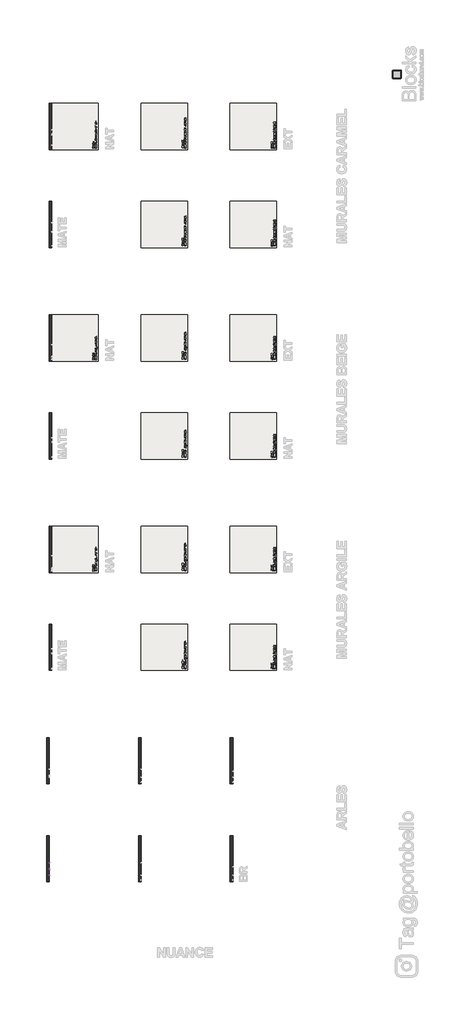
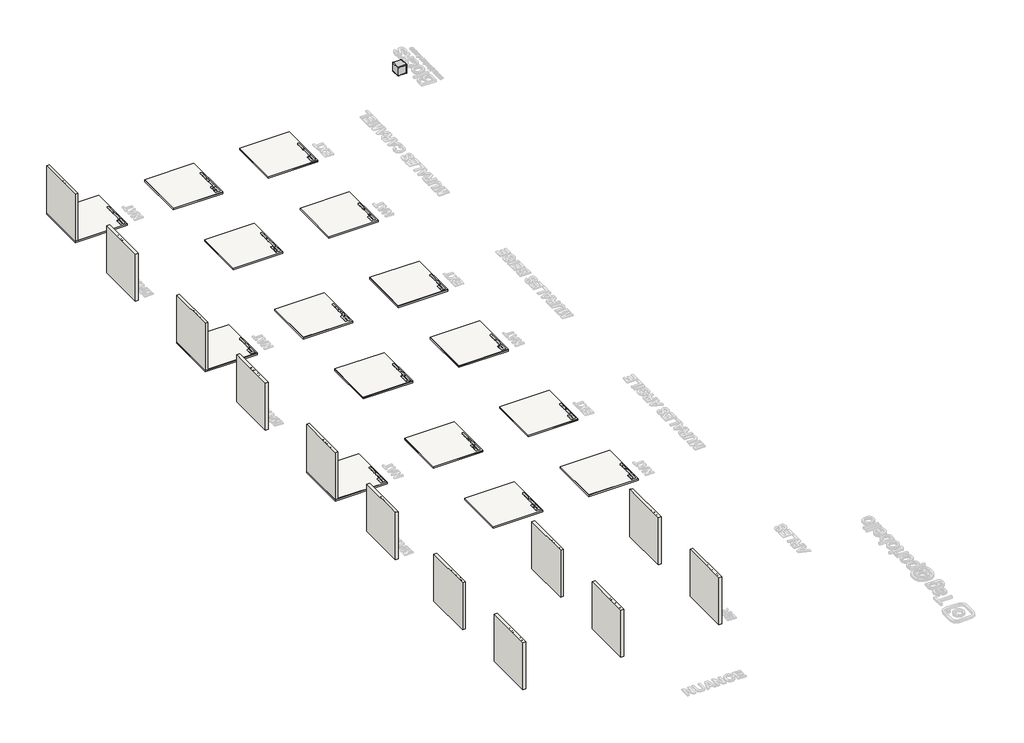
# One storey, part 1 of 21: 30 slabs, 12 walls, 3 proxies, 1 furniture element.
"""IFC4 building model written with IfcOpenShell, lengths in millimetres."""

from ifc_helpers import new_model, si_unit, frame, origin, origin_with_axes, place, context, project, spatial, polyline, outline, extrude, transform, mapped, element, save
from components import branco_22256ad2

model = new_model("IFC4")

# Units and contexts
model_context = context("Model", 3, world=origin())
ifc_project = project(units=[si_unit("LENGTHUNIT", "METRE", prefix="MILLI")], contexts=[model_context])

# Site, building, storey
site = spatial("IfcSite", under=ifc_project)
building = spatial("IfcBuilding", under=site)
storey = spatial("IfcBuildingStorey", under=building, Name="PORTOBELLO - SHOWROOM", Elevation=0.0)

# Proxies
placement = place(None, origin())
element("IfcBuildingElementProxy", 1, Name="10mm Arial", ObjectType="10mm Arial", at=placement, inside=storey, context=model_context, shape_type="SweptSolid", body=[
    extrude(outline(polyline([(-7646.6519205, 2518.4745677), (-7606.552783, 2618.9308778), (-7595.8596797, 2618.9308778), (-7555.7850677, 2518.4745677), (-7569.0533449, 2518.4745677), (-7580.5312632, 2549.8671646), (-7621.9302504, 2549.8671646), (-7633.4081686, 2518.4745677), (-7646.6519205, 2518.4745677)]), holes=[polyline([(-7617.3194627, 2562.4242034), (-7585.1175254, 2562.4242034), (-7594.191948, 2587.121348), (-7601.2307568, 2606.373839), (-7607.4847507, 2589.279589), (-7617.3194627, 2562.4242034)])]), frame((15184.9919226, 0.0, 0.0), z_axis=(1.0, 0.0, 0.0), x_axis=(0.0, 1.0, 0.0)), (0.0, 0.0, 1.0), 20.0),
    extrude(outline(polyline([(-7543.9392674, 2518.4745677), (-7543.9392674, 2592.2471704), (-7532.9518585, 2592.2471704), (-7532.9518585, 2581.3333379), (-7525.1527602, 2591.3887791), (-7517.304611, 2593.8168003), (-7504.6985213, 2589.9417766), (-7508.892376, 2578.6845875), (-7517.7215439, 2581.2597615), (-7524.8216664, 2578.7826894), (-7529.3466149, 2571.9155588), (-7531.3822286, 2557.24933), (-7531.3822286, 2518.4745677), (-7543.9392674, 2518.4745677)])), frame((15184.9919226, 0.0, 0.0), z_axis=(1.0, 0.0, 0.0), x_axis=(0.0, 1.0, 0.0)), (0.0, 0.0, 1.0), 20.0),
    extrude(outline(polyline([(15204.9919226, -7484.2933333), (15204.9919226, -7496.850372), (15184.9919226, -7496.850372), (15184.9919226, -7484.2933333), (15204.9919226, -7484.2933333)])), frame((0.0, 0.0, 2518.4745677), z_axis=(0.0, 0.0, 1.0), x_axis=(1.0, 0.0, 0.0)), (0.0, 0.0, 1.0), 100.4563101),
    extrude(outline(polyline([(-7413.807143, 2540.4493855), (-7401.4953589, 2538.8797557), (-7405.9314026, 2529.602998), (-7413.0100653, 2522.6684224), (-7422.5719315, 2518.345809), (-7434.4575856, 2516.9049378), (-7449.1912596, 2519.391207), (-7460.5281564, 2526.8500144), (-7467.7570376, 2538.7969822), (-7470.1666646, 2554.7477324), (-7467.7325121, 2571.2349771), (-7460.4300545, 2583.5651553), (-7449.2464419, 2591.253889), (-7435.1688242, 2593.8168003), (-7421.5295992, 2591.2600204), (-7410.6310951, 2583.5896808), (-7403.4849873, 2571.2840281), (-7401.1029514, 2554.8213088), (-7401.1765278, 2551.4367944), (-7457.6096259, 2551.4367944), (-7455.4360564, 2542.0374095), (-7450.386876, 2535.1273593), (-7443.0997468, 2530.8783223), (-7434.212331, 2529.4619766), (-7421.9005469, 2532.0862015), (-7413.807143, 2540.4493855)]), holes=[polyline([(-7457.6096259, 2563.9938332), (-7413.6599902, 2563.9938332), (-7418.6877108, 2575.3736496), (-7426.0085625, 2579.7882335), (-7435.2178751, 2581.2597615), (-7450.6811816, 2576.5631347), (-7455.546421, 2571.0724959), (-7457.6096259, 2563.9938332)])]), frame((15184.9919226, 0.0, 0.0), z_axis=(1.0, 0.0, 0.0), x_axis=(0.0, 1.0, 0.0)), (0.0, 0.0, 1.0), 20.0),
    extrude(outline(polyline([(-7393.2548022, 2540.4493855), (-7380.6977634, 2542.0190154), (-7374.8852279, 2532.6993381), (-7361.5678997, 2529.4619766), (-7348.7656062, 2532.429558), (-7344.596277, 2539.3947905), (-7348.7901317, 2545.0356477), (-7361.7150525, 2548.6163658), (-7380.624187, 2554.7599951), (-7388.8770064, 2561.933694), (-7391.6851723, 2572.0627116), (-7389.4288294, 2581.419177), (-7383.2729374, 2588.5683505), (-7375.2898981, 2592.2839586), (-7364.4864302, 2593.8168003), (-7349.2070646, 2591.3519909), (-7339.49498, 2584.6810641), (-7335.1784979, 2573.4116123), (-7347.7355366, 2571.8419824), (-7352.4566889, 2578.7704267), (-7363.5054115, 2581.2597615), (-7375.52289, 2578.8807913), (-7379.1281336, 2573.3380359), (-7377.6320801, 2569.6837414), (-7372.9477161, 2566.9123637), (-7362.1319854, 2564.2390879), (-7343.7010974, 2558.3284505), (-7335.1417097, 2551.6329982), (-7332.0392382, 2540.7191656), (-7335.6812699, 2528.7016871), (-7346.1904323, 2519.9828838), (-7361.7395779, 2516.9049378), (-7374.4008499, 2518.3887285), (-7383.6408194, 2522.8401007), (-7389.8089742, 2530.2100033), (-7393.2548022, 2540.4493855)])), frame((15184.9919226, 0.0, 0.0), z_axis=(1.0, 0.0, 0.0), x_axis=(0.0, 1.0, 0.0)), (0.0, 0.0, 1.0), 20.0),
    extrude(outline(polyline([(-7281.8110831, 2567.3783476), (-7278.463357, 2589.5922887), (-7268.4201785, 2606.3983645), (-7253.0856307, 2616.9749719), (-7233.8637964, 2620.5005077), (-7220.6874896, 2618.8450387), (-7208.8723462, 2613.8786317), (-7199.0621597, 2605.9507747), (-7191.9007235, 2595.4109556), (-7187.5229277, 2582.7680777), (-7186.0636625, 2568.5310445), (-7187.5995698, 2554.1039389), (-7192.2072918, 2541.2832514), (-7199.6323768, 2530.7250381), (-7209.6203729, 2523.0853553), (-7221.3343488, 2518.4500422), (-7233.9373728, 2516.9049378), (-7247.3160147, 2518.6125234), (-7259.1986031, 2523.7352802), (-7268.9842642, 2531.81029), (-7276.072124, 2542.3746346), (-7281.8110831, 2567.3783476)]), holes=[polyline([(-7269.2540443, 2567.2557202), (-7266.7432497, 2551.5410277), (-7259.2108659, 2539.5664687), (-7247.8892975, 2531.9880996), (-7234.0109492, 2529.4619766), (-7219.9302658, 2532.0126251), (-7208.5903033, 2539.6645706), (-7201.1131018, 2552.0070115), (-7198.6207013, 2568.6291463), (-7202.8881324, 2589.3531654), (-7215.3593321, 2603.0751638), (-7233.79022, 2607.9434689), (-7247.2976206, 2605.5982212), (-7258.7816702, 2598.562478), (-7266.6359508, 2586.0452931), (-7269.2540443, 2567.2557202)])]), frame((15184.9919226, 0.0, 0.0), z_axis=(1.0, 0.0, 0.0), x_axis=(0.0, 1.0, 0.0)), (0.0, 0.0, 1.0), 20.0),
    extrude(outline(polyline([(-7126.4177284, 2518.4745677), (-7126.4177284, 2579.6901317), (-7137.4051373, 2579.6901317), (-7137.4051373, 2592.2471704), (-7126.4177284, 2592.2471704), (-7126.4177284, 2599.6783867), (-7125.0933532, 2610.1507609), (-7118.667681, 2617.6310281), (-7106.0125404, 2620.5005077), (-7094.5591476, 2619.1270815), (-7096.3985575, 2607.3548577), (-7103.6335701, 2607.9434689), (-7111.543033, 2605.8588043), (-7113.8606896, 2598.0842314), (-7113.8606896, 2592.2471704), (-7099.734021, 2592.2471704), (-7099.734021, 2579.6901317), (-7113.8606896, 2579.6901317), (-7113.8606896, 2518.4745677), (-7126.4177284, 2518.4745677)])), frame((15184.9919226, 0.0, 0.0), z_axis=(1.0, 0.0, 0.0), x_axis=(0.0, 1.0, 0.0)), (0.0, 0.0, 1.0), 20.0),
    extrude(outline(polyline([(-7167.2281043, 2518.4745677), (-7167.2281043, 2579.6901317), (-7178.2155133, 2579.6901317), (-7178.2155133, 2592.2471704), (-7167.2281043, 2592.2471704), (-7167.2281043, 2599.6783867), (-7165.9037292, 2610.1507609), (-7159.478057, 2617.6310281), (-7146.8229163, 2620.5005077), (-7135.3695236, 2619.1270815), (-7137.2089335, 2607.3548577), (-7144.4439461, 2607.9434689), (-7152.353409, 2605.8588043), (-7154.6710656, 2598.0842314), (-7154.6710656, 2592.2471704), (-7140.544397, 2592.2471704), (-7140.544397, 2579.6901317), (-7154.6710656, 2579.6901317), (-7154.6710656, 2518.4745677), (-7167.2281043, 2518.4745677)])), frame((15184.9919226, 0.0, 0.0), z_axis=(1.0, 0.0, 0.0), x_axis=(0.0, 1.0, 0.0)), (0.0, 0.0, 1.0), 20.0),
    extrude(outline(polyline([(-7029.9590692, 2518.4745677), (-7057.3540151, 2618.9308778), (-7044.4045689, 2618.9308778), (-7028.5120667, 2552.9083224), (-7023.6069734, 2532.5276599), (-7018.3585236, 2550.5538776), (-6998.443845, 2618.9308778), (-6979.7799651, 2618.9308778), (-6965.3099399, 2569.3649103), (-6954.5432602, 2532.5276599), (-6949.7853197, 2552.3197112), (-6933.7701902, 2618.9308778), (-6920.7962185, 2618.9308778), (-6948.166639, 2518.4745677), (-6961.6065945, 2518.4745677), (-6985.7151279, 2595.9750413), (-6989.0751168, 2606.790772), (-6992.8520386, 2593.7677493), (-7014.802331, 2518.4745677), (-7029.9590692, 2518.4745677)])), frame((15184.9919226, 0.0, 0.0), z_axis=(1.0, 0.0, 0.0), x_axis=(0.0, 1.0, 0.0)), (0.0, 0.0, 1.0), 20.0),
    extrude(outline(polyline([(-6909.8088096, 2518.4745677), (-6909.8088096, 2618.9308778), (-6897.2517708, 2618.9308778), (-6897.2517708, 2581.9955255), (-6887.4599784, 2590.8614816), (-6875.3995803, 2593.8168003), (-6861.2974372, 2590.5917015), (-6852.7380494, 2581.6766944), (-6850.1628754, 2565.1710556), (-6850.1628754, 2518.4745677), (-6862.7199142, 2518.4745677), (-6862.7199142, 2563.8712059), (-6866.7175652, 2577.1149577), (-6878.0483307, 2581.2597615), (-6888.3367638, 2578.4638583), (-6895.2038944, 2570.8854892), (-6897.2517708, 2557.6662629), (-6897.2517708, 2518.4745677), (-6909.8088096, 2518.4745677)])), frame((15184.9919226, 0.0, 0.0), z_axis=(1.0, 0.0, 0.0), x_axis=(0.0, 1.0, 0.0)), (0.0, 0.0, 1.0), 20.0),
    extrude(outline(polyline([(15204.9919226, -6820.3399084), (15204.9919226, -6832.8969471), (15184.9919226, -6832.8969471), (15184.9919226, -6820.3399084), (15204.9919226, -6820.3399084)])), frame((0.0, 0.0, 2606.373839), z_axis=(0.0, 0.0, 1.0), x_axis=(1.0, 0.0, 0.0)), (0.0, 0.0, 1.0), 12.5570388),
    extrude(outline(polyline([(15204.9919226, -6820.3399084), (15204.9919226, -6832.8969471), (15184.9919226, -6832.8969471), (15184.9919226, -6820.3399084), (15204.9919226, -6820.3399084)])), frame((0.0, 0.0, 2518.4745677), z_axis=(0.0, 0.0, 1.0), x_axis=(1.0, 0.0, 0.0)), (0.0, 0.0, 1.0), 73.7726028),
    extrude(outline(polyline([(-6774.8206428, 2528.9469418), (-6773.251013, 2518.1066857), (-6782.6442666, 2516.9049378), (-6793.1656917, 2518.9896025), (-6798.4141415, 2524.4587815), (-6799.9347204, 2538.7080774), (-6799.9347204, 2579.6901317), (-6809.3524994, 2579.6901317), (-6809.3524994, 2592.2471704), (-6799.9347204, 2592.2471704), (-6799.9347204, 2610.1752863), (-6787.3776816, 2617.5574517), (-6787.3776816, 2592.2471704), (-6774.8206428, 2592.2471704), (-6774.8206428, 2579.6901317), (-6787.3776816, 2579.6901317), (-6787.3776816, 2539.0759594), (-6786.715494, 2532.6012363), (-6784.5695157, 2530.3081052), (-6780.2898218, 2529.4619766), (-6774.8206428, 2528.9469418)])), frame((15184.9919226, 0.0, 0.0), z_axis=(1.0, 0.0, 0.0), x_axis=(0.0, 1.0, 0.0)), (0.0, 0.0, 1.0), 20.0),
    extrude(outline(polyline([(-6710.6129719, 2540.4493855), (-6698.3011878, 2538.8797557), (-6702.7372316, 2529.602998), (-6709.8158943, 2522.6684224), (-6719.3777605, 2518.345809), (-6731.2634146, 2516.9049378), (-6745.9970885, 2519.391207), (-6757.3339853, 2526.8500144), (-6764.5628665, 2538.7969822), (-6766.9724936, 2554.7477324), (-6764.5383411, 2571.2349771), (-6757.2358835, 2583.5651553), (-6746.0522708, 2591.253889), (-6731.9746531, 2593.8168003), (-6718.3354282, 2591.2600204), (-6707.436924, 2583.5896808), (-6700.2908163, 2571.2840281), (-6697.9087804, 2554.8213088), (-6697.9823568, 2551.4367944), (-6754.4154548, 2551.4367944), (-6752.2418854, 2542.0374095), (-6747.192705, 2535.1273593), (-6739.9055758, 2530.8783223), (-6731.0181599, 2529.4619766), (-6718.7063758, 2532.0862015), (-6710.6129719, 2540.4493855)]), holes=[polyline([(-6754.4154548, 2563.9938332), (-6710.4658191, 2563.9938332), (-6715.4935397, 2575.3736496), (-6722.8143914, 2579.7882335), (-6732.0237041, 2581.2597615), (-6747.4870106, 2576.5631347), (-6752.35225, 2571.0724959), (-6754.4154548, 2563.9938332)])]), frame((15184.9919226, 0.0, 0.0), z_axis=(1.0, 0.0, 0.0), x_axis=(0.0, 1.0, 0.0)), (0.0, 0.0, 1.0), 20.0),
])
element("IfcBuildingElementProxy", 2, Name="10mm Arial", ObjectType="10mm Arial", at=placement, inside=storey, context=model_context, shape_type="SweptSolid", body=[
    extrude(outline(polyline([(-7592.5977926, 2383.4745677), (-7605.1548314, 2383.4745677), (-7605.1548314, 2461.7598562), (-7617.0496826, 2453.2863076), (-7630.2689089, 2446.9464746), (-7630.2689089, 2458.8168003), (-7611.8625465, 2470.5644987), (-7600.6911965, 2483.9308778), (-7592.5977926, 2483.9308778), (-7592.5977926, 2383.4745677)])), frame((15184.9919226, 0.0, 0.0), z_axis=(1.0, 0.0, 0.0), x_axis=(0.0, 1.0, 0.0)), (0.0, 0.0, 1.0), 20.0),
    extrude(outline(polyline([(-7562.7748256, 2410.158275), (-7550.2177868, 2411.7279049), (-7543.8902165, 2398.7907214), (-7530.769092, 2394.4619766), (-7521.7682458, 2395.9672271), (-7515.0237426, 2400.4829786), (-7510.8114937, 2407.4880649), (-7509.4074108, 2416.4613199), (-7514.6681233, 2431.3728034), (-7521.2746708, 2435.4746877), (-7530.5728883, 2436.8419824), (-7541.5970854, 2434.6592159), (-7548.6481569, 2428.9938332), (-7561.2051957, 2430.563463), (-7550.2177868, 2482.361248), (-7501.5592616, 2482.361248), (-7501.5592616, 2469.8042092), (-7540.0642437, 2469.8042092), (-7545.4598463, 2442.1394832), (-7536.489657, 2447.5841367), (-7527.090272, 2449.3990212), (-7515.3548364, 2447.1488097), (-7505.6059635, 2440.3981751), (-7499.0392699, 2430.1097419), (-7496.850372, 2417.2461348), (-7498.8185407, 2404.6890961), (-7504.7230467, 2393.9469418), (-7516.0292867, 2384.9154388), (-7530.8181429, 2381.9049378), (-7543.1513868, 2383.839384), (-7552.9769018, 2389.6427224), (-7559.712208, 2398.6405029), (-7562.7748256, 2410.158275)])), frame((15184.9919226, 0.0, 0.0), z_axis=(1.0, 0.0, 0.0), x_axis=(0.0, 1.0, 0.0)), (0.0, 0.0, 1.0), 20.0),
    extrude(outline(polyline([(-7479.5844437, 2383.4745677), (-7479.5844437, 2396.0316064), (-7467.027405, 2396.0316064), (-7467.027405, 2383.4745677), (-7469.2837479, 2370.635486), (-7476.445184, 2363.0693797), (-7479.5844437, 2367.7782692), (-7474.973656, 2373.1983973), (-7473.3304498, 2383.4745677), (-7479.5844437, 2383.4745677)])), frame((15184.9919226, 0.0, 0.0), z_axis=(1.0, 0.0, 0.0), x_axis=(0.0, 1.0, 0.0)), (0.0, 0.0, 1.0), 20.0),
    extrude(outline(polyline([(-7446.622217, 2410.158275), (-7434.0651782, 2411.7279049), (-7427.7376079, 2398.7907214), (-7414.6164834, 2394.4619766), (-7405.6156372, 2395.9672271), (-7398.871134, 2400.4829786), (-7394.6588851, 2407.4880649), (-7393.2548022, 2416.4613199), (-7398.5155147, 2431.3728034), (-7405.1220622, 2435.4746877), (-7414.4202796, 2436.8419824), (-7425.4444768, 2434.6592159), (-7432.4955483, 2428.9938332), (-7445.0525871, 2430.563463), (-7434.0651782, 2482.361248), (-7385.406653, 2482.361248), (-7385.406653, 2469.8042092), (-7423.9116351, 2469.8042092), (-7429.3072377, 2442.1394832), (-7420.3370484, 2447.5841367), (-7410.9376634, 2449.3990212), (-7399.2022278, 2447.1488097), (-7389.4533549, 2440.3981751), (-7382.8866613, 2430.1097419), (-7380.6977634, 2417.2461348), (-7382.6659321, 2404.6890961), (-7388.5704381, 2393.9469418), (-7399.8766781, 2384.9154388), (-7414.6655343, 2381.9049378), (-7426.9987782, 2383.839384), (-7436.8242931, 2389.6427224), (-7443.5595993, 2398.6405029), (-7446.622217, 2410.158275)])), frame((15184.9919226, 0.0, 0.0), z_axis=(1.0, 0.0, 0.0), x_axis=(0.0, 1.0, 0.0)), (0.0, 0.0, 1.0), 20.0),
    extrude(outline(polyline([(-7374.419244, 2383.4745677), (-7347.5883839, 2420.5815982), (-7372.8496142, 2457.2471704), (-7357.7909779, 2457.2471704), (-7345.6018211, 2439.5643092), (-7339.8873874, 2431.2501761), (-7334.9332432, 2438.0682557), (-7321.0518293, 2457.2471704), (-7305.944142, 2457.2471704), (-7332.4806966, 2420.5570728), (-7306.9251607, 2383.4745677), (-7322.0083225, 2383.4745677), (-7337.4103153, 2405.792742), (-7340.2062185, 2409.8884949), (-7359.3115568, 2383.4745677), (-7374.419244, 2383.4745677)])), frame((15184.9919226, 0.0, 0.0), z_axis=(1.0, 0.0, 0.0), x_axis=(0.0, 1.0, 0.0)), (0.0, 0.0, 1.0), 20.0),
    extrude(outline(polyline([(-7251.988116, 2383.4745677), (-7264.5451548, 2383.4745677), (-7264.5451548, 2461.7598562), (-7276.440006, 2453.2863076), (-7289.6592323, 2446.9464746), (-7289.6592323, 2458.8168003), (-7271.2528699, 2470.5644987), (-7260.0815199, 2483.9308778), (-7251.988116, 2483.9308778), (-7251.988116, 2383.4745677)])), frame((15184.9919226, 0.0, 0.0), z_axis=(1.0, 0.0, 0.0), x_axis=(0.0, 1.0, 0.0)), (0.0, 0.0, 1.0), 20.0),
    extrude(outline(polyline([(-7222.165149, 2410.158275), (-7209.6081102, 2411.7279049), (-7203.2805399, 2398.7907214), (-7190.1594154, 2394.4619766), (-7181.1585692, 2395.9672271), (-7174.414066, 2400.4829786), (-7170.2018171, 2407.4880649), (-7168.7977342, 2416.4613199), (-7174.0584467, 2431.3728034), (-7180.6649942, 2435.4746877), (-7189.9632117, 2436.8419824), (-7200.9874088, 2434.6592159), (-7208.0384803, 2428.9938332), (-7220.5955191, 2430.563463), (-7209.6081102, 2482.361248), (-7160.949585, 2482.361248), (-7160.949585, 2469.8042092), (-7199.4545671, 2469.8042092), (-7204.8501697, 2442.1394832), (-7195.8799804, 2447.5841367), (-7186.4805954, 2449.3990212), (-7174.7451598, 2447.1488097), (-7164.9962869, 2440.3981751), (-7158.4295933, 2430.1097419), (-7156.2406954, 2417.2461348), (-7158.2088641, 2404.6890961), (-7164.1133701, 2393.9469418), (-7175.4196101, 2384.9154388), (-7190.2084663, 2381.9049378), (-7202.5417102, 2383.839384), (-7212.3672252, 2389.6427224), (-7219.1025314, 2398.6405029), (-7222.165149, 2410.158275)])), frame((15184.9919226, 0.0, 0.0), z_axis=(1.0, 0.0, 0.0), x_axis=(0.0, 1.0, 0.0)), (0.0, 0.0, 1.0), 20.0),
    extrude(outline(polyline([(-7138.9747671, 2383.4745677), (-7138.9747671, 2396.0316064), (-7126.4177284, 2396.0316064), (-7126.4177284, 2383.4745677), (-7128.6740713, 2370.635486), (-7135.8355074, 2363.0693797), (-7138.9747671, 2367.7782692), (-7134.3639794, 2373.1983973), (-7132.7207732, 2383.4745677), (-7138.9747671, 2383.4745677)])), frame((15184.9919226, 0.0, 0.0), z_axis=(1.0, 0.0, 0.0), x_axis=(0.0, 1.0, 0.0)), (0.0, 0.0, 1.0), 20.0),
    extrude(outline(polyline([(-7106.0125404, 2410.158275), (-7093.4555016, 2411.7279049), (-7087.1279313, 2398.7907214), (-7074.0068068, 2394.4619766), (-7065.0059606, 2395.9672271), (-7058.2614574, 2400.4829786), (-7054.0492085, 2407.4880649), (-7052.6451256, 2416.4613199), (-7057.9058381, 2431.3728034), (-7064.5123856, 2435.4746877), (-7073.810603, 2436.8419824), (-7084.8348002, 2434.6592159), (-7091.8858717, 2428.9938332), (-7104.4429105, 2430.563463), (-7093.4555016, 2482.361248), (-7044.7969764, 2482.361248), (-7044.7969764, 2469.8042092), (-7083.3019585, 2469.8042092), (-7088.6975611, 2442.1394832), (-7079.7273718, 2447.5841367), (-7070.3279868, 2449.3990212), (-7058.5925512, 2447.1488097), (-7048.8436783, 2440.3981751), (-7042.2769847, 2430.1097419), (-7040.0880868, 2417.2461348), (-7042.0562555, 2404.6890961), (-7047.9607615, 2393.9469418), (-7059.2670015, 2384.9154388), (-7074.0558577, 2381.9049378), (-7086.3891016, 2383.839384), (-7096.2146165, 2389.6427224), (-7102.9499227, 2398.6405029), (-7106.0125404, 2410.158275)])), frame((15184.9919226, 0.0, 0.0), z_axis=(1.0, 0.0, 0.0), x_axis=(0.0, 1.0, 0.0)), (0.0, 0.0, 1.0), 20.0),
])
element("IfcBuildingElementProxy", 3, Name="10mm Arial Narrow", ObjectType="10mm Arial Narrow", at=placement, inside=storey, context=model_context, shape_type="SweptSolid", body=[
    extrude(outline(polyline([(-6633.0722036, 2518.4745677), (-6633.0722036, 2615.7916181), (-6602.8323036, 2615.7916181), (-6587.0869542, 2613.9767336), (-6576.0014434, 2604.8164719), (-6571.8566396, 2588.3721467), (-6573.5826193, 2576.7041561), (-6578.7605584, 2567.402873), (-6588.1752718, 2561.314426), (-6602.6115744, 2559.2849437), (-6623.6544246, 2559.2849437), (-6623.6544246, 2518.4745677), (-6633.0722036, 2518.4745677)]), holes=[polyline([(-6623.6544246, 2570.2723526), (-6601.4588775, 2570.2723526), (-6586.130461, 2574.6501483), (-6581.2744187, 2587.857112), (-6583.6656517, 2597.6795612), (-6589.441399, 2603.2836303), (-6601.6796067, 2604.8042092), (-6623.6544246, 2604.8042092), (-6623.6544246, 2570.2723526)])]), frame((15184.9919226, 0.0, 0.0), z_axis=(1.0, 0.0, 0.0), x_axis=(0.0, 1.0, 0.0)), (0.0, 0.0, 1.0), 20.0),
    extrude(outline(polyline([(-6564.0084904, 2553.7912392), (-6562.1200295, 2569.8216971), (-6556.4546468, 2581.3701261), (-6547.895259, 2588.350687), (-6537.324783, 2590.6775406), (-6526.8769344, 2588.350687), (-6518.2930211, 2581.3701261), (-6512.554062, 2570.0056381), (-6510.6410756, 2554.5270032), (-6512.5203395, 2537.9447223), (-6518.1581311, 2526.2123523), (-6526.7083218, 2519.2317914), (-6537.324783, 2516.9049378), (-6547.8186169, 2519.2379228), (-6556.3933331, 2526.2368778), (-6562.1047011, 2537.7914381), (-6564.0084904, 2553.7912392)]), holes=[polyline([(-6554.5907113, 2553.8157647), (-6553.3307155, 2541.6879216), (-6549.550728, 2533.1162711), (-6543.906805, 2528.0211054), (-6537.0550029, 2526.3227169), (-6530.5618857, 2528.0364339), (-6525.0620498, 2533.1775847), (-6521.3096535, 2541.7645636), (-6520.0588547, 2553.8157647), (-6521.3188505, 2565.9068196), (-6525.098838, 2574.4662073), (-6530.742761, 2579.561373), (-6537.5945631, 2581.2597615), (-6544.1336656, 2579.5521759), (-6549.6243044, 2574.4294191), (-6553.3491096, 2565.8608343), (-6554.5907113, 2553.8157647)])]), frame((15184.9919226, 0.0, 0.0), z_axis=(1.0, 0.0, 0.0), x_axis=(0.0, 1.0, 0.0)), (0.0, 0.0, 1.0), 20.0),
    extrude(outline(polyline([(-6441.5773624, 2526.3227169), (-6440.0077326, 2516.9049378), (-6447.1201178, 2516.9049378), (-6455.1154198, 2518.9528143), (-6459.2847491, 2524.5568833), (-6460.4129206, 2538.7080774), (-6460.4129206, 2579.6901317), (-6468.2610698, 2579.6901317), (-6468.2610698, 2582.8293914), (-6469.8306996, 2578.1205018), (-6477.1392886, 2579.6901317), (-6483.0131378, 2577.4460515), (-6486.7532714, 2571.1797948), (-6488.6662578, 2556.2928368), (-6488.6662578, 2518.4745677), (-6498.0840369, 2518.4745677), (-6498.0840369, 2589.1079107), (-6488.6662578, 2589.1079107), (-6488.6662578, 2579.7391826), (-6482.6329931, 2588.5192995), (-6476.4525756, 2590.6775406), (-6468.2610698, 2589.1079107), (-6460.4129206, 2589.1079107), (-6460.4129206, 2604.8042092), (-6450.9951415, 2612.6523584), (-6450.9951415, 2589.1079107), (-6441.5773624, 2589.1079107), (-6441.5773624, 2579.6901317), (-6450.9951415, 2579.6901317), (-6450.9951415, 2536.5498364), (-6450.1612756, 2528.8243145), (-6445.6976408, 2526.3227169), (-6441.5773624, 2526.3227169)])), frame((15184.9919226, 0.0, 0.0), z_axis=(1.0, 0.0, 0.0), x_axis=(0.0, 1.0, 0.0)), (0.0, 0.0, 1.0), 20.0),
    extrude(outline(polyline([(-6435.298843, 2553.7912392), (-6433.4103821, 2569.8216971), (-6427.7449994, 2581.3701261), (-6419.1856116, 2588.350687), (-6408.6151356, 2590.6775406), (-6398.167287, 2588.350687), (-6389.5833738, 2581.3701261), (-6383.8444146, 2570.0056381), (-6381.9314283, 2554.5270032), (-6383.8106921, 2537.9447223), (-6389.4484837, 2526.2123523), (-6397.9986744, 2519.2317914), (-6408.6151356, 2516.9049378), (-6419.1089696, 2519.2379228), (-6427.6836857, 2526.2368778), (-6433.3950537, 2537.7914381), (-6435.298843, 2553.7912392)]), holes=[polyline([(-6425.8810639, 2553.8157647), (-6424.6210681, 2541.6879216), (-6420.8410806, 2533.1162711), (-6415.1971577, 2528.0211054), (-6408.3453555, 2526.3227169), (-6401.8522383, 2528.0364339), (-6396.3524025, 2533.1775847), (-6392.6000061, 2541.7645636), (-6391.3492073, 2553.8157647), (-6392.6092032, 2565.9068196), (-6396.3891907, 2574.4662073), (-6402.0331136, 2579.561373), (-6408.8849158, 2581.2597615), (-6415.4240182, 2579.5521759), (-6420.914657, 2574.4294191), (-6424.6394622, 2565.8608343), (-6425.8810639, 2553.8157647)])]), frame((15184.9919226, 0.0, 0.0), z_axis=(1.0, 0.0, 0.0), x_axis=(0.0, 1.0, 0.0)), (0.0, 0.0, 1.0), 20.0),
    extrude(outline(polyline([(-6359.9566104, 2518.4745677), (-6369.3743895, 2518.4745677), (-6369.3743895, 2615.7916181), (-6359.9566104, 2615.7916181), (-6359.9566104, 2581.5785926), (-6352.807437, 2588.4211977), (-6343.9169554, 2590.6775406), (-6331.4702813, 2586.6185759), (-6322.5062233, 2574.3190545), (-6319.1462344, 2554.3307995), (-6321.0132355, 2538.4321659), (-6326.6142389, 2526.641548), (-6334.7045771, 2519.3390904), (-6344.0395828, 2516.9049378), (-6353.0649544, 2519.4310609), (-6359.9566104, 2526.9358536), (-6359.9566104, 2518.4745677)]), holes=[polyline([(-6359.9566104, 2554.3307995), (-6357.9455222, 2537.6657451), (-6352.255614, 2529.2289847), (-6344.0886337, 2526.3227169), (-6338.3466089, 2528.0517623), (-6333.2851658, 2533.2388984), (-6328.5640135, 2553.938392), (-6333.1134875, 2574.6501483), (-6338.181062, 2579.6073582), (-6344.2848374, 2581.2597615), (-6350.0605847, 2579.5307161), (-6355.1741445, 2574.34358), (-6359.9566104, 2554.3307995)])]), frame((15184.9919226, 0.0, 0.0), z_axis=(1.0, 0.0, 0.0), x_axis=(0.0, 1.0, 0.0)), (0.0, 0.0, 1.0), 20.0),
    extrude(outline(polyline([(-6268.9180793, 2540.4493855), (-6259.5003003, 2538.8797557), (-6268.6973501, 2522.4476932), (-6285.1784635, 2516.9049378), (-6296.3804703, 2519.2379228), (-6305.2157695, 2526.2368778), (-6310.9547287, 2537.6442853), (-6312.867715, 2553.202628), (-6310.9455316, 2569.3066623), (-6305.1789813, 2581.0758205), (-6296.4693751, 2588.2771106), (-6285.7180238, 2590.6775406), (-6275.3958681, 2588.359884), (-6266.9437793, 2581.4069143), (-6261.3059877, 2570.0638861), (-6259.4267239, 2554.5760541), (-6259.5003003, 2551.4367944), (-6303.449936, 2551.4367944), (-6297.6496632, 2532.6502872), (-6291.9199011, 2527.9046095), (-6285.0558362, 2526.3227169), (-6275.2211242, 2529.854384), (-6268.9180793, 2540.4493855)]), holes=[polyline([(-6302.8122738, 2560.8545735), (-6268.9180793, 2560.8545735), (-6273.0383577, 2574.6378856), (-6278.6669522, 2579.6042925), (-6285.6444474, 2581.2597615), (-6297.4411967, 2575.7415316), (-6302.8122738, 2560.8545735)])]), frame((15184.9919226, 0.0, 0.0), z_axis=(1.0, 0.0, 0.0), x_axis=(0.0, 1.0, 0.0)), (0.0, 0.0, 1.0), 20.0),
    extrude(outline(polyline([(15204.9919226, -6237.5254824), (15204.9919226, -6246.9432615), (15184.9919226, -6246.9432615), (15184.9919226, -6237.5254824), (15204.9919226, -6237.5254824)])), frame((0.0, 0.0, 2518.4745677), z_axis=(0.0, 0.0, 1.0), x_axis=(1.0, 0.0, 0.0)), (0.0, 0.0, 1.0), 97.3170505),
    extrude(outline(polyline([(15204.9919226, -6212.4114049), (15204.9919226, -6221.829184), (15184.9919226, -6221.829184), (15184.9919226, -6212.4114049), (15204.9919226, -6212.4114049)])), frame((0.0, 0.0, 2518.4745677), z_axis=(0.0, 0.0, 1.0), x_axis=(1.0, 0.0, 0.0)), (0.0, 0.0, 1.0), 97.3170505),
    extrude(outline(polyline([(-6201.423996, 2553.7912392), (-6199.535535, 2569.8216971), (-6193.8701523, 2581.3701261), (-6185.3107646, 2588.350687), (-6174.7402886, 2590.6775406), (-6164.2924399, 2588.350687), (-6155.7085267, 2581.3701261), (-6149.9695676, 2570.0056381), (-6148.0565812, 2554.5270032), (-6149.935845, 2537.9447223), (-6155.5736366, 2526.2123523), (-6164.1238273, 2519.2317914), (-6174.7402886, 2516.9049378), (-6185.2341225, 2519.2379228), (-6193.8088387, 2526.2368778), (-6199.5202066, 2537.7914381), (-6201.423996, 2553.7912392)]), holes=[polyline([(-6192.0062169, 2553.8157647), (-6190.746221, 2541.6879216), (-6186.9662335, 2533.1162711), (-6181.3223106, 2528.0211054), (-6174.4705084, 2526.3227169), (-6167.9773912, 2528.0364339), (-6162.4775554, 2533.1775847), (-6158.725159, 2541.7645636), (-6157.4743603, 2553.8157647), (-6158.7343561, 2565.9068196), (-6162.5143436, 2574.4662073), (-6168.1582665, 2579.561373), (-6175.0100687, 2581.2597615), (-6181.5491712, 2579.5521759), (-6187.0398099, 2574.4294191), (-6190.7646151, 2565.8608343), (-6192.0062169, 2553.8157647)])]), frame((15184.9919226, 0.0, 0.0), z_axis=(1.0, 0.0, 0.0), x_axis=(0.0, 1.0, 0.0)), (0.0, 0.0, 1.0), 20.0),
])

# Furniture
branco_shape = branco_22256ad2(model_context)
element("IfcFurniture", 4, ObjectType="Blks_Mob_Blocks Revit_Cubo : Branco", at=placement, inside=storey, context=model_context, shape_type="MappedRepresentation", body=[
    mapped(branco_shape, transform((35435.2148271, 39252.4325198, 0.0), x_axis=(1.0, 0.0, 0.0), y_axis=(0.0, 1.0, 0.0), z_axis=(0.0, 0.0, 1.0))),
])

# Slabs
element("IfcSlab", 5, ObjectType="PORTOBELLO - NUANCE MURALE ARGILE 20X20 NAT BOLD", at=placement, inside=storey, context=model_context, shape_type="SweptSolid", body=[
    extrude(outline(polyline([(18033.968651, 10275.391761), (15333.968651, 10275.391761), (15333.968651, 12975.391761), (18033.968651, 12975.391761), (18033.968651, 10275.391761)])), frame((0.0, 0.0, -17.0), z_axis=(0.0, 0.0, 1.0), x_axis=(1.0, 0.0, 0.0)), (0.0, 0.0, 1.0), 17.0),
])
element("IfcSlab", 6, ObjectType="PORTOBELLO - LAJE", at=placement, inside=storey, context=model_context, shape_type="SweptSolid", body=[
    extrude(outline(polyline([(18033.968651, 12975.391761), (18033.968651, 10275.391761), (15183.968651, 10275.391761), (15183.968651, 12975.391761), (18033.968651, 12975.391761)])), frame((0.0, 0.0, -97.0), z_axis=(0.0, 0.0, 1.0), x_axis=(1.0, 0.0, 0.0)), (0.0, 0.0, 1.0), 80.0),
])
element("IfcSlab", 7, ObjectType="PORTOBELLO - LAJE", at=placement, inside=storey, context=model_context, shape_type="SweptSolid", body=[
    extrude(outline(polyline([(28434.0186832, 7275.391761), (28434.0186832, 4575.391761), (25734.0186832, 4575.391761), (25734.0186832, 7275.391761), (28434.0186832, 7275.391761)])), frame((0.0, 0.0, -80.0), z_axis=(0.0, 0.0, 1.0), x_axis=(1.0, 0.0, 0.0)), (0.0, 0.0, 1.0), 80.0),
])
element("IfcSlab", 8, ObjectType="PORTOBELLO - NUANCE MURALE ARGILE 90X90 NAT RET", at=placement, inside=storey, context=model_context, shape_type="SweptSolid", body=[
    extrude(outline(polyline([(28434.0186832, 4575.391761), (25734.0186832, 4575.391761), (25734.0186832, 7275.391761), (28434.0186832, 7275.391761), (28434.0186832, 4575.391761)])), origin_with_axes(), (0.0, 0.0, 1.0), 18.0),
])
element("IfcSlab", 9, ObjectType="PORTOBELLO - LAJE", at=placement, inside=storey, context=model_context, shape_type="SweptSolid", body=[
    extrude(outline(polyline([(28434.0186832, 12975.391761), (28434.0186832, 10275.391761), (25734.0186832, 10275.391761), (25734.0186832, 12975.391761), (28434.0186832, 12975.391761)])), frame((0.0, 0.0, -80.0), z_axis=(0.0, 0.0, 1.0), x_axis=(1.0, 0.0, 0.0)), (0.0, 0.0, 1.0), 80.0),
])
element("IfcSlab", 10, ObjectType="PORTOBELLO - NUANCE MURALE ARGILE 90X90 EXT RET", at=placement, inside=storey, context=model_context, shape_type="SweptSolid", body=[
    extrude(outline(polyline([(28434.0186832, 10275.391761), (25734.0186832, 10275.391761), (25734.0186832, 12975.391761), (28434.0186832, 12975.391761), (28434.0186832, 10275.391761)])), origin_with_axes(), (0.0, 0.0, 1.0), 18.0),
])
element("IfcSlab", 11, ObjectType="PORTOBELLO - LAJE", at=placement, inside=storey, context=model_context, shape_type="SweptSolid", body=[
    extrude(outline(polyline([(23233.9936671, 12975.391761), (23233.9936671, 10275.391761), (20533.9936671, 10275.391761), (20533.9936671, 12975.391761), (23233.9936671, 12975.391761)])), frame((0.0, 0.0, -80.0), z_axis=(0.0, 0.0, 1.0), x_axis=(1.0, 0.0, 0.0)), (0.0, 0.0, 1.0), 80.0),
])
element("IfcSlab", 12, ObjectType="PORTOBELLO - NUANCE MURALE ARGILE ST 120X120 EXT RET", at=placement, inside=storey, context=model_context, shape_type="SweptSolid", body=[
    extrude(outline(polyline([(23233.9936671, 10275.391761), (20533.9936671, 10275.391761), (20533.9936671, 12975.391761), (23233.9936671, 12975.391761), (23233.9936671, 10275.391761)])), origin_with_axes(), (0.0, 0.0, 1.0), 17.0),
])
element("IfcSlab", 13, ObjectType="PORTOBELLO - LAJE", at=placement, inside=storey, context=model_context, shape_type="SweptSolid", body=[
    extrude(outline(polyline([(23233.9936671, 7275.391761), (23233.9936671, 4575.391761), (20533.9936671, 4575.391761), (20533.9936671, 7275.391761), (23233.9936671, 7275.391761)])), frame((0.0, 0.0, -80.0), z_axis=(0.0, 0.0, 1.0), x_axis=(1.0, 0.0, 0.0)), (0.0, 0.0, 1.0), 80.0),
])
element("IfcSlab", 14, ObjectType="PORTOBELLO - NUANCE MURALE ARGILE ST 120X120 NAT RET", at=placement, inside=storey, context=model_context, shape_type="SweptSolid", body=[
    extrude(outline(polyline([(23233.9936671, 4575.391761), (20533.9936671, 4575.391761), (20533.9936671, 7275.391761), (23233.9936671, 7275.391761), (23233.9936671, 4575.391761)])), origin_with_axes(), (0.0, 0.0, 1.0), 17.0),
])
element("IfcSlab", 15, ObjectType="PORTOBELLO - NUANCE MURALE BEIGE 20X20 NAT BOLD", at=placement, inside=storey, context=model_context, shape_type="SweptSolid", body=[
    extrude(outline(polyline([(18033.968651, 22575.391761), (15333.968651, 22575.391761), (15333.968651, 25275.391761), (18033.968651, 25275.391761), (18033.968651, 22575.391761)])), frame((0.0, 0.0, -17.0), z_axis=(0.0, 0.0, 1.0), x_axis=(1.0, 0.0, 0.0)), (0.0, 0.0, 1.0), 17.0),
])
element("IfcSlab", 16, ObjectType="PORTOBELLO - LAJE", at=placement, inside=storey, context=model_context, shape_type="SweptSolid", body=[
    extrude(outline(polyline([(18033.968651, 25275.391761), (18033.968651, 22575.391761), (15183.968651, 22575.391761), (15183.968651, 25275.391761), (18033.968651, 25275.391761)])), frame((0.0, 0.0, -97.0), z_axis=(0.0, 0.0, 1.0), x_axis=(1.0, 0.0, 0.0)), (0.0, 0.0, 1.0), 80.0),
])
element("IfcSlab", 17, ObjectType="PORTOBELLO - LAJE", at=placement, inside=storey, context=model_context, shape_type="SweptSolid", body=[
    extrude(outline(polyline([(28434.0186832, 19575.391761), (28434.0186832, 16875.391761), (25734.0186832, 16875.391761), (25734.0186832, 19575.391761), (28434.0186832, 19575.391761)])), frame((0.0, 0.0, -80.0), z_axis=(0.0, 0.0, 1.0), x_axis=(1.0, 0.0, 0.0)), (0.0, 0.0, 1.0), 80.0),
])
element("IfcSlab", 18, ObjectType="PORTOBELLO - NUANCE MURALE BEIGE 90X90 NAT RET", at=placement, inside=storey, context=model_context, shape_type="SweptSolid", body=[
    extrude(outline(polyline([(28434.0186832, 16875.391761), (25734.0186832, 16875.391761), (25734.0186832, 19575.391761), (28434.0186832, 19575.391761), (28434.0186832, 16875.391761)])), origin_with_axes(), (0.0, 0.0, 1.0), 18.0),
])
element("IfcSlab", 19, ObjectType="PORTOBELLO - LAJE", at=placement, inside=storey, context=model_context, shape_type="SweptSolid", body=[
    extrude(outline(polyline([(28434.0186832, 25275.391761), (28434.0186832, 22575.391761), (25734.0186832, 22575.391761), (25734.0186832, 25275.391761), (28434.0186832, 25275.391761)])), frame((0.0, 0.0, -80.0), z_axis=(0.0, 0.0, 1.0), x_axis=(1.0, 0.0, 0.0)), (0.0, 0.0, 1.0), 80.0),
])
element("IfcSlab", 20, ObjectType="PORTOBELLO - NUANCE MURALE BEIGE 90X90 EXT RET", at=placement, inside=storey, context=model_context, shape_type="SweptSolid", body=[
    extrude(outline(polyline([(28434.0186832, 22575.391761), (25734.0186832, 22575.391761), (25734.0186832, 25275.391761), (28434.0186832, 25275.391761), (28434.0186832, 22575.391761)])), origin_with_axes(), (0.0, 0.0, 1.0), 18.0),
])
element("IfcSlab", 21, ObjectType="PORTOBELLO - LAJE", at=placement, inside=storey, context=model_context, shape_type="SweptSolid", body=[
    extrude(outline(polyline([(23233.9936671, 25275.391761), (23233.9936671, 22575.391761), (20533.9936671, 22575.391761), (20533.9936671, 25275.391761), (23233.9936671, 25275.391761)])), frame((0.0, 0.0, -80.0), z_axis=(0.0, 0.0, 1.0), x_axis=(1.0, 0.0, 0.0)), (0.0, 0.0, 1.0), 80.0),
])
element("IfcSlab", 22, ObjectType="PORTOBELLO - NUANCE MURALE BEIGE ST 120X120 EXT RET", at=placement, inside=storey, context=model_context, shape_type="SweptSolid", body=[
    extrude(outline(polyline([(23233.9936671, 22575.391761), (20533.9936671, 22575.391761), (20533.9936671, 25275.391761), (23233.9936671, 25275.391761), (23233.9936671, 22575.391761)])), origin_with_axes(), (0.0, 0.0, 1.0), 17.0),
])
element("IfcSlab", 23, ObjectType="PORTOBELLO - LAJE", at=placement, inside=storey, context=model_context, shape_type="SweptSolid", body=[
    extrude(outline(polyline([(23233.9936671, 19575.391761), (23233.9936671, 16875.391761), (20533.9936671, 16875.391761), (20533.9936671, 19575.391761), (23233.9936671, 19575.391761)])), frame((0.0, 0.0, -80.0), z_axis=(0.0, 0.0, 1.0), x_axis=(1.0, 0.0, 0.0)), (0.0, 0.0, 1.0), 80.0),
])
element("IfcSlab", 24, ObjectType="PORTOBELLO - NUANCE MURALE BEIGE ST 120X120 NAT RET", at=placement, inside=storey, context=model_context, shape_type="SweptSolid", body=[
    extrude(outline(polyline([(23233.9936671, 16875.391761), (20533.9936671, 16875.391761), (20533.9936671, 19575.391761), (23233.9936671, 19575.391761), (23233.9936671, 16875.391761)])), origin_with_axes(), (0.0, 0.0, 1.0), 17.0),
])
element("IfcSlab", 25, ObjectType="PORTOBELLO - NUANCE MURALE CARAMEL 20X20 NAT BOLD", at=placement, inside=storey, context=model_context, shape_type="SweptSolid", body=[
    extrude(outline(polyline([(18033.968651, 34875.391761), (15333.968651, 34875.391761), (15333.968651, 37575.391761), (18033.968651, 37575.391761), (18033.968651, 34875.391761)])), frame((0.0, 0.0, -17.0), z_axis=(0.0, 0.0, 1.0), x_axis=(1.0, 0.0, 0.0)), (0.0, 0.0, 1.0), 17.0),
])
element("IfcSlab", 26, ObjectType="PORTOBELLO - LAJE", at=placement, inside=storey, context=model_context, shape_type="SweptSolid", body=[
    extrude(outline(polyline([(18033.968651, 37575.391761), (18033.968651, 34875.391761), (15183.968651, 34875.391761), (15183.968651, 37575.391761), (18033.968651, 37575.391761)])), frame((0.0, 0.0, -97.0), z_axis=(0.0, 0.0, 1.0), x_axis=(1.0, 0.0, 0.0)), (0.0, 0.0, 1.0), 80.0),
])
element("IfcSlab", 27, ObjectType="PORTOBELLO - LAJE", at=placement, inside=storey, context=model_context, shape_type="SweptSolid", body=[
    extrude(outline(polyline([(28434.0186832, 31875.391761), (28434.0186832, 29175.391761), (25734.0186832, 29175.391761), (25734.0186832, 31875.391761), (28434.0186832, 31875.391761)])), frame((0.0, 0.0, -80.0), z_axis=(0.0, 0.0, 1.0), x_axis=(1.0, 0.0, 0.0)), (0.0, 0.0, 1.0), 80.0),
])
element("IfcSlab", 28, ObjectType="PORTOBELLO - NUANCE MURALE CARAMEL 90X90 NAT RET", at=placement, inside=storey, context=model_context, shape_type="SweptSolid", body=[
    extrude(outline(polyline([(28434.0186832, 29175.391761), (25734.0186832, 29175.391761), (25734.0186832, 31875.391761), (28434.0186832, 31875.391761), (28434.0186832, 29175.391761)])), origin_with_axes(), (0.0, 0.0, 1.0), 18.0),
])
element("IfcSlab", 29, ObjectType="PORTOBELLO - LAJE", at=placement, inside=storey, context=model_context, shape_type="SweptSolid", body=[
    extrude(outline(polyline([(28434.0186832, 37575.391761), (28434.0186832, 34875.391761), (25734.0186832, 34875.391761), (25734.0186832, 37575.391761), (28434.0186832, 37575.391761)])), frame((0.0, 0.0, -80.0), z_axis=(0.0, 0.0, 1.0), x_axis=(1.0, 0.0, 0.0)), (0.0, 0.0, 1.0), 80.0),
])
element("IfcSlab", 30, ObjectType="PORTOBELLO - NUANCE MURALE CARAMEL 90X90 EXT RET", at=placement, inside=storey, context=model_context, shape_type="SweptSolid", body=[
    extrude(outline(polyline([(28434.0186832, 34875.391761), (25734.0186832, 34875.391761), (25734.0186832, 37575.391761), (28434.0186832, 37575.391761), (28434.0186832, 34875.391761)])), origin_with_axes(), (0.0, 0.0, 1.0), 18.0),
])
element("IfcSlab", 31, ObjectType="PORTOBELLO - LAJE", at=placement, inside=storey, context=model_context, shape_type="SweptSolid", body=[
    extrude(outline(polyline([(23233.9936671, 37575.391761), (23233.9936671, 34875.391761), (20533.9936671, 34875.391761), (20533.9936671, 37575.391761), (23233.9936671, 37575.391761)])), frame((0.0, 0.0, -80.0), z_axis=(0.0, 0.0, 1.0), x_axis=(1.0, 0.0, 0.0)), (0.0, 0.0, 1.0), 80.0),
])
element("IfcSlab", 32, ObjectType="PORTOBELLO - NUANCE MURALE CARAMEL ST 120X120 EXT RET", at=placement, inside=storey, context=model_context, shape_type="SweptSolid", body=[
    extrude(outline(polyline([(23233.9936671, 34875.391761), (20533.9936671, 34875.391761), (20533.9936671, 37575.391761), (23233.9936671, 37575.391761), (23233.9936671, 34875.391761)])), origin_with_axes(), (0.0, 0.0, 1.0), 17.0),
])
element("IfcSlab", 33, ObjectType="PORTOBELLO - LAJE", at=placement, inside=storey, context=model_context, shape_type="SweptSolid", body=[
    extrude(outline(polyline([(23233.9936671, 31875.391761), (23233.9936671, 29175.391761), (20533.9936671, 29175.391761), (20533.9936671, 31875.391761), (23233.9936671, 31875.391761)])), frame((0.0, 0.0, -80.0), z_axis=(0.0, 0.0, 1.0), x_axis=(1.0, 0.0, 0.0)), (0.0, 0.0, 1.0), 80.0),
])
element("IfcSlab", 34, ObjectType="PORTOBELLO - NUANCE MURALE CARAMEL ST 120X120 NAT RET", at=placement, inside=storey, context=model_context, shape_type="SweptSolid", body=[
    extrude(outline(polyline([(23233.9936671, 29175.391761), (20533.9936671, 29175.391761), (20533.9936671, 31875.391761), (23233.9936671, 31875.391761), (23233.9936671, 29175.391761)])), origin_with_axes(), (0.0, 0.0, 1.0), 17.0),
])

# Walls
element("IfcWall", 35, ObjectType="PORTOBELLO - NUANCE ARLES OFF WHITE 15,5X15,5 BR BOLD", at=placement, inside=storey, context=model_context, shape_type="SweptSolid", body=[
    extrude(outline(polyline([(15184.9919226, -5024.608239), (15184.9919226, -7724.608239), (15032.9919226, -7724.608239), (15032.9919226, -5024.608239), (15184.9919226, -5024.608239)])), frame((0.0, 0.0, -17.0), z_axis=(0.0, 0.0, 1.0), x_axis=(1.0, 0.0, 0.0)), (0.0, 0.0, 1.0), 2717.0),
])
element("IfcWall", 36, ObjectType="PORTOBELLO - NUANCE ARLES OLIVE 15,5X15,5 BR BOLD", at=placement, inside=storey, context=model_context, shape_type="SweptSolid", body=[
    extrude(outline(polyline([(15184.9919226, 675.391761), (15184.9919226, -2024.608239), (15032.9919226, -2024.608239), (15032.9919226, 675.391761), (15184.9919226, 675.391761)])), frame((0.0, 0.0, -17.0), z_axis=(0.0, 0.0, 1.0), x_axis=(1.0, 0.0, 0.0)), (0.0, 0.0, 1.0), 2717.0),
])
element("IfcWall", 37, ObjectType="PORTOBELLO - NUANCE ARLES LAVENDER 15,5X15,5 BR BOLD", at=placement, inside=storey, context=model_context, shape_type="SweptSolid", body=[
    extrude(outline(polyline([(20534.9936671, -5024.608239), (20534.9936671, -7724.608239), (20382.9936671, -7724.608239), (20382.9936671, -5024.608239), (20534.9936671, -5024.608239)])), frame((0.0, 0.0, -17.0), z_axis=(0.0, 0.0, 1.0), x_axis=(1.0, 0.0, 0.0)), (0.0, 0.0, 1.0), 2717.0),
])
element("IfcWall", 38, ObjectType="PORTOBELLO - NUANCE ARLES BEIGE 15,5X15,5 BR BOLD", at=placement, inside=storey, context=model_context, shape_type="SweptSolid", body=[
    extrude(outline(polyline([(25885.0186832, -5024.608239), (25885.0186832, -7724.608239), (25733.0186832, -7724.608239), (25733.0186832, -5024.608239), (25885.0186832, -5024.608239)])), frame((0.0, 0.0, -17.0), z_axis=(0.0, 0.0, 1.0), x_axis=(1.0, 0.0, 0.0)), (0.0, 0.0, 1.0), 2717.0),
])
element("IfcWall", 39, ObjectType="PORTOBELLO - NUANCE ARLES NAVY 15,5X15,5 BR BOLD", at=placement, inside=storey, context=model_context, shape_type="SweptSolid", body=[
    extrude(outline(polyline([(20534.9936671, 675.391761), (20534.9936671, -2024.608239), (20382.9936671, -2024.608239), (20382.9936671, 675.391761), (20534.9936671, 675.391761)])), frame((0.0, 0.0, -17.0), z_axis=(0.0, 0.0, 1.0), x_axis=(1.0, 0.0, 0.0)), (0.0, 0.0, 1.0), 2717.0),
])
element("IfcWall", 40, ObjectType="PORTOBELLO - NUANCE ARLES BRUN 15,5X15,5 BR BOLD", at=placement, inside=storey, context=model_context, shape_type="SweptSolid", body=[
    extrude(outline(polyline([(25885.0186832, 675.391761), (25885.0186832, -2024.608239), (25733.0186832, -2024.608239), (25733.0186832, 675.391761), (25885.0186832, 675.391761)])), frame((0.0, 0.0, -17.0), z_axis=(0.0, 0.0, 1.0), x_axis=(1.0, 0.0, 0.0)), (0.0, 0.0, 1.0), 2717.0),
])
element("IfcWall", 41, ObjectType="PORTOBELLO - NUANCE MURALE ARGILE GRIT 45X120 MATE RET", at=placement, inside=storey, context=model_context, shape_type="SweptSolid", body=[
    extrude(outline(polyline([(15340.268651, 7275.391761), (15340.268651, 4575.391761), (15183.968651, 4575.391761), (15183.968651, 7275.391761), (15340.268651, 7275.391761)])), frame((0.0, 0.0, -17.0), z_axis=(0.0, 0.0, 1.0), x_axis=(1.0, 0.0, 0.0)), (0.0, 0.0, 1.0), 2717.0),
])
element("IfcWall", 42, ObjectType="PORTOBELLO - NUANCE MURALE ARGILE 20X20 NAT BOLD", at=placement, inside=storey, context=model_context, shape_type="SweptSolid", body=[
    extrude(outline(polyline([(15333.968651, 12975.391761), (15333.968651, 10275.391761), (15183.968651, 10275.391761), (15183.968651, 12975.391761), (15333.968651, 12975.391761)])), frame((0.0, 0.0, -17.0), z_axis=(0.0, 0.0, 1.0), x_axis=(1.0, 0.0, 0.0)), (0.0, 0.0, 1.0), 2717.0),
])
element("IfcWall", 43, ObjectType="PORTOBELLO - NUANCE MURALE BEIGE GRIT 45X120 MATE RET", at=placement, inside=storey, context=model_context, shape_type="SweptSolid", body=[
    extrude(outline(polyline([(15340.268651, 19575.391761), (15340.268651, 16875.391761), (15183.968651, 16875.391761), (15183.968651, 19575.391761), (15340.268651, 19575.391761)])), frame((0.0, 0.0, -17.0), z_axis=(0.0, 0.0, 1.0), x_axis=(1.0, 0.0, 0.0)), (0.0, 0.0, 1.0), 2717.0),
])
element("IfcWall", 44, ObjectType="PORTOBELLO - NUANCE MURALE BEIGE 20X20 NAT BOLD", at=placement, inside=storey, context=model_context, shape_type="SweptSolid", body=[
    extrude(outline(polyline([(15333.968651, 25275.391761), (15333.968651, 22575.391761), (15183.968651, 22575.391761), (15183.968651, 25275.391761), (15333.968651, 25275.391761)])), frame((0.0, 0.0, -17.0), z_axis=(0.0, 0.0, 1.0), x_axis=(1.0, 0.0, 0.0)), (0.0, 0.0, 1.0), 2717.0),
])
element("IfcWall", 45, ObjectType="PORTOBELLO - NUANCE MURALE CARAMEL GRIT 45X120 MATE RET", at=placement, inside=storey, context=model_context, shape_type="SweptSolid", body=[
    extrude(outline(polyline([(15340.268651, 31875.391761), (15340.268651, 29175.391761), (15183.968651, 29175.391761), (15183.968651, 31875.391761), (15340.268651, 31875.391761)])), frame((0.0, 0.0, -17.0), z_axis=(0.0, 0.0, 1.0), x_axis=(1.0, 0.0, 0.0)), (0.0, 0.0, 1.0), 2717.0),
])
element("IfcWall", 46, ObjectType="PORTOBELLO - NUANCE MURALE CARAMEL 20X20 NAT BOLD", at=placement, inside=storey, context=model_context, shape_type="SweptSolid", body=[
    extrude(outline(polyline([(15333.968651, 37575.391761), (15333.968651, 34875.391761), (15183.968651, 34875.391761), (15183.968651, 37575.391761), (15333.968651, 37575.391761)])), frame((0.0, 0.0, -17.0), z_axis=(0.0, 0.0, 1.0), x_axis=(1.0, 0.0, 0.0)), (0.0, 0.0, 1.0), 2717.0),
])

save(model, "model.ifc")
